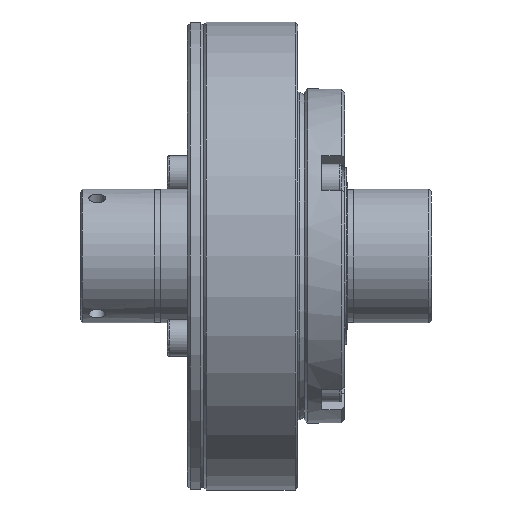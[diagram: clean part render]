
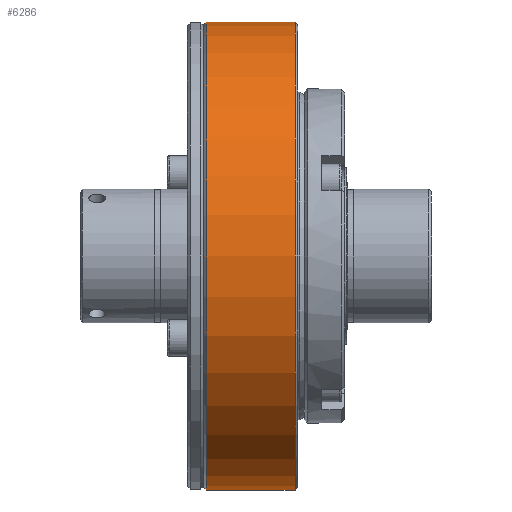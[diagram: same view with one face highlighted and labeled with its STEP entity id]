
A CAD part, front view. The second image highlights one B-rep face of the part: STEP entity #6286.
In plain terms, the highlighted cylindrical face has radius 35 mm (diameter 70 mm), a full revolution.
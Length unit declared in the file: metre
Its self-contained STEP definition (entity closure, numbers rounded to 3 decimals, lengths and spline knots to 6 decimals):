
#6 = EDGE_LOOP ( 'NONE', ( #13553 ) ) ;
#309 = EDGE_CURVE ( 'NONE', #372, #372, #8830, .T. ) ;
#372 = VERTEX_POINT ( 'NONE', #9652 ) ;
#864 = CARTESIAN_POINT ( 'NONE',  ( -0.0337, 0., 0. ) ) ;
#1113 = EDGE_CURVE ( 'NONE', #3613, #3613, #9581, .T. ) ;
#3438 = FACE_OUTER_BOUND ( 'NONE', #14529, .T. ) ;
#3450 = ORIENTED_EDGE ( 'NONE', *, *, #1113, .T. ) ;
#3613 = VERTEX_POINT ( 'NONE', #3685 ) ;
#3685 = CARTESIAN_POINT ( 'NONE',  ( -0.0204, 0., 0.035 ) ) ;
#4349 = DIRECTION ( 'NONE',  ( -1., 0., 0. ) ) ;
#4724 = CYLINDRICAL_SURFACE ( 'NONE', #8425, 0.035 ) ;
#5461 = DIRECTION ( 'NONE',  ( 0., 0., 1. ) ) ;
#5765 = DIRECTION ( 'NONE',  ( 1., 0., 0. ) ) ;
#5859 = FACE_OUTER_BOUND ( 'NONE', #6, .T. ) ;
#6286 = ADVANCED_FACE ( 'NONE', ( #3438, #5859 ), #4724, .T. ) ;
#6438 = AXIS2_PLACEMENT_3D ( 'NONE', #9010, #4349, #13786 ) ;
#8425 = AXIS2_PLACEMENT_3D ( 'NONE', #9172, #11590, #13794 ) ;
#8830 = CIRCLE ( 'NONE', #10767, 0.035 ) ;
#9010 = CARTESIAN_POINT ( 'NONE',  ( -0.0204, 0., 0. ) ) ;
#9172 = CARTESIAN_POINT ( 'NONE',  ( -0.042142, 0., 0. ) ) ;
#9581 = CIRCLE ( 'NONE', #6438, 0.035 ) ;
#9652 = CARTESIAN_POINT ( 'NONE',  ( -0.0337, 0., 0.035 ) ) ;
#10767 = AXIS2_PLACEMENT_3D ( 'NONE', #864, #5765, #5461 ) ;
#11590 = DIRECTION ( 'NONE',  ( -1., 0., 0. ) ) ;
#13553 = ORIENTED_EDGE ( 'NONE', *, *, #309, .T. ) ;
#13786 = DIRECTION ( 'NONE',  ( 0., 0., 1. ) ) ;
#13794 = DIRECTION ( 'NONE',  ( 0., 0., 1. ) ) ;
#14529 = EDGE_LOOP ( 'NONE', ( #3450 ) ) ;
